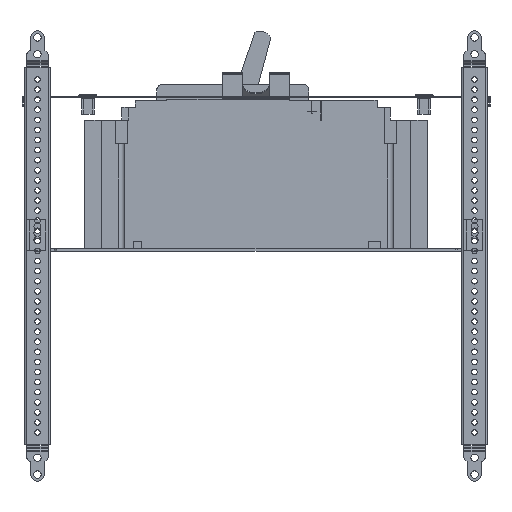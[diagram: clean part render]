
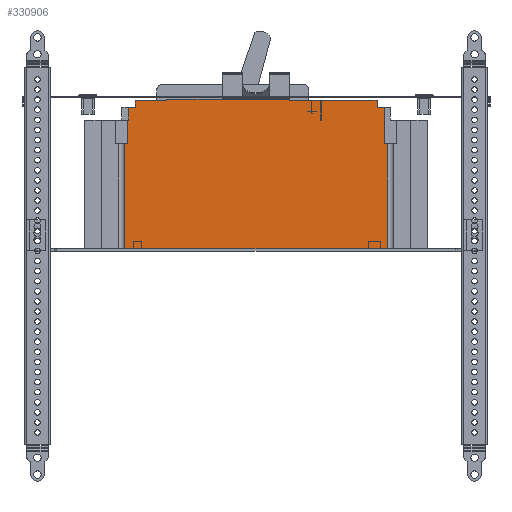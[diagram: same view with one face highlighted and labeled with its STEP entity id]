
A CAD part, left-side view. The second image highlights one B-rep face of the part: STEP entity #330906.
In plain terms, the highlighted planar face has unit normal (-1, 0, 0).
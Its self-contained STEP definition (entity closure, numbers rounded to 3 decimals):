
#328731=CARTESIAN_POINT(' ',(-284.311,-45.217,44.353));
#328736=DIRECTION(' ',(0.,1.,0.));
#328741=VECTOR(' ',#328736,1.);
#328746=LINE('',#328731,#328741);
#328751=CARTESIAN_POINT(' ',(-284.311,-45.217,44.353));
#328752=VERTEX_POINT(' ',#328751);
#328756=CARTESIAN_POINT(' ',(-284.311,-21.717,44.353));
#328757=VERTEX_POINT(' ',#328756);
#328761=EDGE_CURVE(' ',#328752,#328757,#328746,.T.);
#329301=CARTESIAN_POINT(' ',(-284.311,69.283,44.353));
#329302=VERTEX_POINT(' ',#329301);
#329446=CARTESIAN_POINT(' ',(-284.311,92.783,44.353));
#329447=VERTEX_POINT(' ',#329446);
#329461=CARTESIAN_POINT(' ',(-284.311,69.283,44.353));
#329466=DIRECTION(' ',(0.,1.,0.));
#329471=VECTOR(' ',#329466,1.);
#329476=LINE('',#329461,#329471);
#329481=EDGE_CURVE(' ',#329302,#329447,#329476,.T.);
#329656=CARTESIAN_POINT(' ',(-284.311,69.283,45.353));
#329661=DIRECTION(' ',(0.,0.,-1.));
#329666=VECTOR(' ',#329661,1.);
#329671=LINE('',#329656,#329666);
#329676=CARTESIAN_POINT(' ',(-284.311,69.283,45.353));
#329677=VERTEX_POINT(' ',#329676);
#329681=EDGE_CURVE(' ',#329677,#329302,#329671,.T.);
#329766=CARTESIAN_POINT(' ',(-284.311,69.283,45.353));
#329771=DIRECTION(' ',(0.,-1.,0.));
#329776=VECTOR(' ',#329771,1.);
#329781=LINE('',#329766,#329776);
#329786=CARTESIAN_POINT(' ',(-284.311,-21.717,45.353));
#329787=VERTEX_POINT(' ',#329786);
#329791=EDGE_CURVE(' ',#329677,#329787,#329781,.T.);
#329891=CARTESIAN_POINT(' ',(-284.311,-21.717,45.353));
#329896=DIRECTION(' ',(0.,0.,-1.));
#329901=VECTOR(' ',#329896,1.);
#329906=LINE('',#329891,#329901);
#329911=EDGE_CURVE(' ',#329787,#328757,#329906,.T.);
#330256=DIRECTION(' ',(-1.,0.,0.));
#330261=CARTESIAN_POINT(' ',(-284.311,-94.422,-65.647));
#330266=DIRECTION(' ',(0.,-0.,1.));
#330271=AXIS2_PLACEMENT_3D(' ',#330261,#330256,#330266);
#330276=PLANE('NONE',#330271);
#330281=CARTESIAN_POINT(' ',(-284.311,-94.422,12.353));
#330286=DIRECTION(' ',(0.,1.,0.));
#330291=VECTOR(' ',#330286,1.);
#330296=LINE('',#330281,#330291);
#330301=CARTESIAN_POINT(' ',(-284.311,-94.422,12.353));
#330302=VERTEX_POINT(' ',#330301);
#330306=CARTESIAN_POINT(' ',(-284.311,-92.467,12.353));
#330307=VERTEX_POINT(' ',#330306);
#330311=EDGE_CURVE(' ',#330302,#330307,#330296,.T.);
#330316=ORIENTED_EDGE(' ',*,*,#330311,.T.);
#330321=CARTESIAN_POINT(' ',(-284.311,-92.467,39.353));
#330326=DIRECTION(' ',(0.,0.,-1.));
#330331=VECTOR(' ',#330326,1.);
#330336=LINE('',#330321,#330331);
#330341=CARTESIAN_POINT(' ',(-284.311,-92.467,39.353));
#330342=VERTEX_POINT(' ',#330341);
#330346=EDGE_CURVE(' ',#330342,#330307,#330336,.T.);
#330351=ORIENTED_EDGE(' ',*,*,#330346,.F.);
#330356=CARTESIAN_POINT(' ',(-284.311,-86.967,39.353));
#330361=DIRECTION(' ',(0.,-1.,0.));
#330366=VECTOR(' ',#330361,1.);
#330371=LINE('',#330356,#330366);
#330376=CARTESIAN_POINT(' ',(-284.311,-86.967,39.353));
#330377=VERTEX_POINT(' ',#330376);
#330381=EDGE_CURVE(' ',#330377,#330342,#330371,.T.);
#330386=ORIENTED_EDGE(' ',*,*,#330381,.F.);
#330391=CARTESIAN_POINT(' ',(-284.311,-86.967,44.753));
#330396=DIRECTION(' ',(0.,0.,-1.));
#330401=VECTOR(' ',#330396,1.);
#330406=LINE('',#330391,#330401);
#330411=CARTESIAN_POINT(' ',(-284.311,-86.967,44.753));
#330412=VERTEX_POINT(' ',#330411);
#330416=EDGE_CURVE(' ',#330412,#330377,#330406,.T.);
#330421=ORIENTED_EDGE(' ',*,*,#330416,.F.);
#330426=CARTESIAN_POINT(' ',(-284.311,-45.467,44.753));
#330431=DIRECTION(' ',(0.,-1.,0.));
#330436=VECTOR(' ',#330431,1.);
#330441=LINE('',#330426,#330436);
#330446=CARTESIAN_POINT(' ',(-284.311,-45.467,44.753));
#330447=VERTEX_POINT(' ',#330446);
#330451=EDGE_CURVE(' ',#330447,#330412,#330441,.T.);
#330456=ORIENTED_EDGE(' ',*,*,#330451,.F.);
#330461=CARTESIAN_POINT(' ',(-284.311,-45.467,29.853));
#330466=DIRECTION(' ',(0.,0.,1.));
#330471=VECTOR(' ',#330466,1.);
#330476=LINE('',#330461,#330471);
#330481=CARTESIAN_POINT(' ',(-284.311,-45.467,29.853));
#330482=VERTEX_POINT(' ',#330481);
#330486=EDGE_CURVE(' ',#330482,#330447,#330476,.T.);
#330491=ORIENTED_EDGE(' ',*,*,#330486,.F.);
#330496=CARTESIAN_POINT(' ',(-284.311,-45.217,29.853));
#330501=DIRECTION(' ',(0.,-1.,0.));
#330506=VECTOR(' ',#330501,1.);
#330511=LINE('',#330496,#330506);
#330516=CARTESIAN_POINT(' ',(-284.311,-45.217,29.853));
#330517=VERTEX_POINT(' ',#330516);
#330521=EDGE_CURVE(' ',#330517,#330482,#330511,.T.);
#330526=ORIENTED_EDGE(' ',*,*,#330521,.F.);
#330531=CARTESIAN_POINT(' ',(-284.311,-45.217,29.853));
#330536=DIRECTION(' ',(0.,0.,1.));
#330541=VECTOR(' ',#330536,1.);
#330546=LINE('',#330531,#330541);
#330551=EDGE_CURVE(' ',#330517,#328752,#330546,.T.);
#330556=ORIENTED_EDGE(' ',*,*,#330551,.T.);
#330561=ORIENTED_EDGE(' ',*,*,#328761,.T.);
#330566=ORIENTED_EDGE(' ',*,*,#329911,.F.);
#330571=ORIENTED_EDGE(' ',*,*,#329791,.F.);
#330576=ORIENTED_EDGE(' ',*,*,#329681,.T.);
#330581=ORIENTED_EDGE(' ',*,*,#329481,.T.);
#330586=CARTESIAN_POINT(' ',(-284.311,92.783,44.353));
#330591=DIRECTION(' ',(0.,0.,-1.));
#330596=VECTOR(' ',#330591,1.);
#330601=LINE('',#330586,#330596);
#330606=CARTESIAN_POINT(' ',(-284.311,92.783,39.353));
#330607=VERTEX_POINT(' ',#330606);
#330611=EDGE_CURVE(' ',#329447,#330607,#330601,.T.);
#330616=ORIENTED_EDGE(' ',*,*,#330611,.T.);
#330621=CARTESIAN_POINT(' ',(-284.311,92.783,39.353));
#330626=DIRECTION(' ',(0.,1.,0.));
#330631=VECTOR(' ',#330626,1.);
#330636=LINE('',#330621,#330631);
#330641=CARTESIAN_POINT(' ',(-284.311,98.033,39.353));
#330642=VERTEX_POINT(' ',#330641);
#330646=EDGE_CURVE(' ',#330607,#330642,#330636,.T.);
#330651=ORIENTED_EDGE(' ',*,*,#330646,.T.);
#330656=CARTESIAN_POINT(' ',(-284.311,98.033,39.353));
#330661=DIRECTION(' ',(0.,0.,-1.));
#330666=VECTOR(' ',#330661,1.);
#330671=LINE('',#330656,#330666);
#330676=CARTESIAN_POINT(' ',(-284.311,98.033,29.853));
#330677=VERTEX_POINT(' ',#330676);
#330681=EDGE_CURVE(' ',#330642,#330677,#330671,.T.);
#330686=ORIENTED_EDGE(' ',*,*,#330681,.T.);
#330691=CARTESIAN_POINT(' ',(-284.311,98.533,29.853));
#330696=DIRECTION(' ',(0.,-1.,0.));
#330701=VECTOR(' ',#330696,1.);
#330706=LINE('',#330691,#330701);
#330711=CARTESIAN_POINT(' ',(-284.311,98.533,29.853));
#330712=VERTEX_POINT(' ',#330711);
#330716=EDGE_CURVE(' ',#330712,#330677,#330706,.T.);
#330721=ORIENTED_EDGE(' ',*,*,#330716,.F.);
#330726=CARTESIAN_POINT(' ',(-284.311,98.533,29.853));
#330731=DIRECTION(' ',(0.,0.,-1.));
#330736=VECTOR(' ',#330731,1.);
#330741=LINE('',#330726,#330736);
#330746=CARTESIAN_POINT(' ',(-284.311,98.533,12.353));
#330747=VERTEX_POINT(' ',#330746);
#330751=EDGE_CURVE(' ',#330712,#330747,#330741,.T.);
#330756=ORIENTED_EDGE(' ',*,*,#330751,.T.);
#330761=CARTESIAN_POINT(' ',(-284.311,100.487,12.353));
#330766=DIRECTION(' ',(0.,-1.,0.));
#330771=VECTOR(' ',#330766,1.);
#330776=LINE('',#330761,#330771);
#330781=CARTESIAN_POINT(' ',(-284.311,100.487,12.353));
#330782=VERTEX_POINT(' ',#330781);
#330786=EDGE_CURVE(' ',#330782,#330747,#330776,.T.);
#330791=ORIENTED_EDGE(' ',*,*,#330786,.F.);
#330796=CARTESIAN_POINT(' ',(-284.311,100.487,12.353));
#330801=DIRECTION(' ',(0.,0.,-1.));
#330806=VECTOR(' ',#330801,1.);
#330811=LINE('',#330796,#330806);
#330816=CARTESIAN_POINT(' ',(-284.311,100.487,-65.647));
#330817=VERTEX_POINT(' ',#330816);
#330821=EDGE_CURVE(' ',#330782,#330817,#330811,.T.);
#330826=ORIENTED_EDGE(' ',*,*,#330821,.T.);
#330831=CARTESIAN_POINT(' ',(-284.311,-94.422,-65.647));
#330836=DIRECTION(' ',(0.,1.,0.));
#330841=VECTOR(' ',#330836,1.);
#330846=LINE('',#330831,#330841);
#330851=CARTESIAN_POINT(' ',(-284.311,-94.422,-65.647));
#330852=VERTEX_POINT(' ',#330851);
#330856=EDGE_CURVE(' ',#330852,#330817,#330846,.T.);
#330861=ORIENTED_EDGE(' ',*,*,#330856,.F.);
#330866=CARTESIAN_POINT(' ',(-284.311,-94.422,-65.647));
#330871=DIRECTION(' ',(0.,0.,1.));
#330876=VECTOR(' ',#330871,1.);
#330881=LINE('',#330866,#330876);
#330886=EDGE_CURVE(' ',#330852,#330302,#330881,.T.);
#330891=ORIENTED_EDGE(' ',*,*,#330886,.T.);
#330896=EDGE_LOOP(' ',(#330316,#330351,#330386,#330421,#330456,#330491,#330526,#330556,#330561,#330566,#330571,#330576,#330581,#330616,#330651,#330686,#330721,#330756,#330791,#330826,#330861,#330891));
#330901=FACE_OUTER_BOUND(' ',#330896,.T.);
#330906=ADVANCED_FACE('NONE',(#330901),#330276,.T.);
